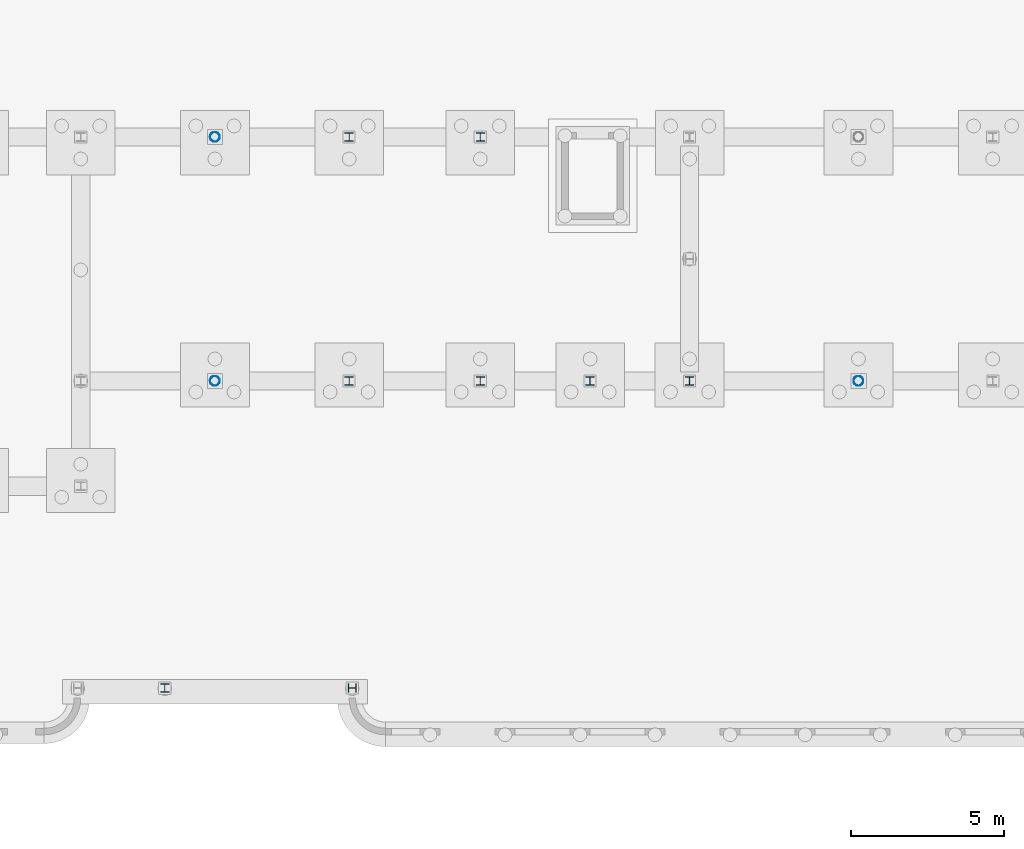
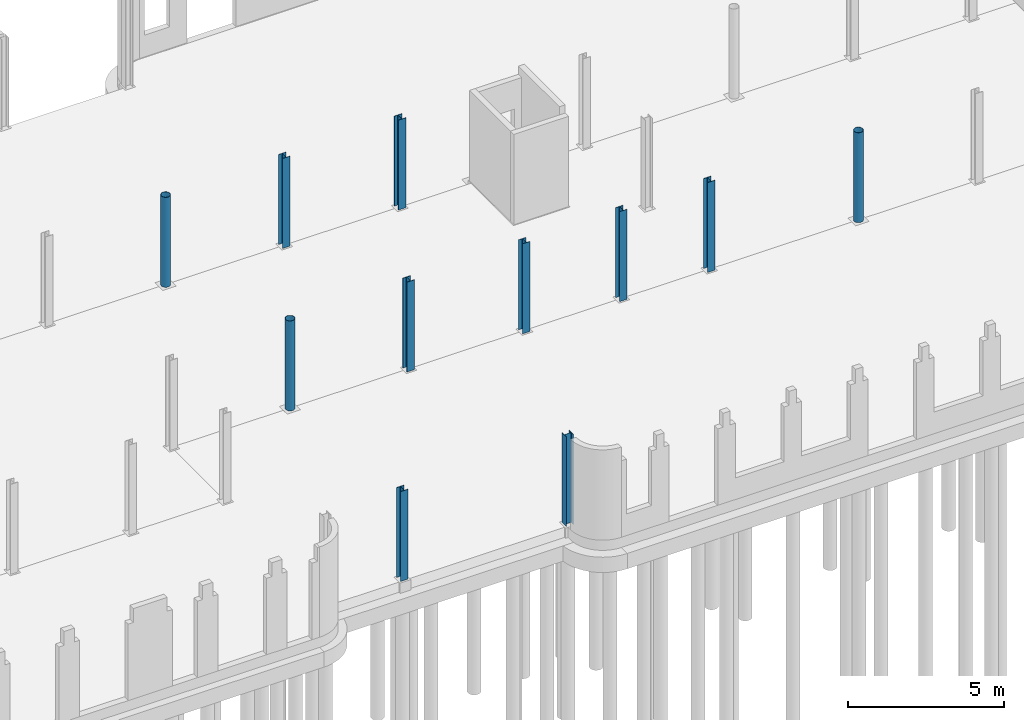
# One storey, part 12 of 26: 11 columns.
"""IFC2X3 building model written with IfcOpenShell, lengths in millimetres."""

import ifcopenshell
import ifcopenshell.guid

model = None  # the IFC model being written
_history = None  # IfcOwnerHistory: only IFC2X3 demands one
_inside = {}  # id of a spatial element -> (the spatial element, [elements in it])
_under = {}  # id of a project, library or spatial element -> (it, [spatial elements below it])
_declared = {}  # id of a project -> (the project, [libraries it declares])
_typed = {}  # id of a type object -> (the type object, [elements of that type])
_made_of = {}  # id of a material, layer set ... -> (it, [elements and type objects made of it])


def new_model(schema):
    """Start an empty IFC model of exactly this schema.

    Asked for "IFC4X3", IfcOpenShell would pick the latest addendum, in which some entities
    have other attributes; the version numbers below select the first issue.
    IFC2X3 requires an IfcOwnerHistory on every rooted entity: one is made here for all.
    """
    global model, _history
    if schema == "IFC4X3":
        model = ifcopenshell.file(schema_version=(4, 3, 0, 0))
    else:
        model = ifcopenshell.file(schema=schema)
    _inside.clear()
    _under.clear()
    _declared.clear()
    _typed.clear()
    _made_of.clear()
    _history = None
    if model.schema == "IFC2X3":
        org = make("IfcOrganization", Name="unknown")
        user = make(
            "IfcPersonAndOrganization",
            ThePerson=make("IfcPerson", FamilyName="unknown"),
            TheOrganization=org,
        )
        app = make(
            "IfcApplication",
            ApplicationDeveloper=org,
            Version="unknown",
            ApplicationFullName="unknown",
            ApplicationIdentifier="unknown",
        )
        _history = make(
            "IfcOwnerHistory",
            OwningUser=user,
            OwningApplication=app,
            ChangeAction="ADDED",
            CreationDate=0,
        )
    return model


def make(cls, **values):
    """One entity of the class cls with the attributes given. An attribute that is None is left unset."""
    return model.create_entity(
        cls, **{name: value for name, value in values.items() if value is not None}
    )


def entity(cls, *values):
    """Any entity or typed value of the class cls, its attributes in the order of the schema. None: left unset."""
    e = model.create_entity(cls)
    for i, value in enumerate(values):
        if value is not None:
            e[i] = value
    return e


def rooted(cls, **values):
    """An entity with a GlobalId (a new one), such as an element, a storey or a relation."""
    return make(cls, GlobalId=ifcopenshell.guid.new(), OwnerHistory=_history, **values)


def si_unit(unit_type, name, prefix=None):
    """IfcSIUnit, for example si_unit("LENGTHUNIT", "METRE", prefix="MILLI")."""
    return make("IfcSIUnit", UnitType=unit_type, Prefix=prefix, Name=name)


def converted_unit(unit_type, name, factor, base, dimensions=None, offset=None):
    """IfcConversionBasedUnit, such as the inch: factor (a typed value) times the base unit."""
    return make(
        "IfcConversionBasedUnit"
        if offset is None
        else "IfcConversionBasedUnitWithOffset",
        ConversionOffset=offset,
        Dimensions=None
        if dimensions is None
        else entity("IfcDimensionalExponents", *dimensions),
        UnitType=unit_type,
        Name=name,
        ConversionFactor=make(
            "IfcMeasureWithUnit", ValueComponent=factor, UnitComponent=base
        ),
    )


def derived_unit(unit_type, elements):
    """IfcDerivedUnit: a product of units, each with its exponent."""
    return make(
        "IfcDerivedUnit",
        Elements=[
            make("IfcDerivedUnitElement", Unit=unit, Exponent=power)
            for unit, power in elements
        ],
        UnitType=unit_type,
    )


def assignment(units):
    """IfcUnitAssignment: the units of a project."""
    return None if units is None else make("IfcUnitAssignment", Units=units)


def point(xyz):
    """IfcCartesianPoint."""
    return None if xyz is None else make("IfcCartesianPoint", Coordinates=xyz)


def direction(xyz):
    """IfcDirection."""
    return None if xyz is None else make("IfcDirection", DirectionRatios=xyz)


def frame(location, z_axis=None, x_axis=None):
    """IfcAxis2Placement3D, a coordinate frame: its origin and axes. An axis left out is left unset."""
    return make(
        "IfcAxis2Placement3D",
        Location=point(location),
        Axis=direction(z_axis),
        RefDirection=direction(x_axis),
    )


def frame_2d(location, x_axis=None):
    """IfcAxis2Placement2D, a coordinate frame in the plane: its origin and x axis."""
    return make(
        "IfcAxis2Placement2D", Location=point(location), RefDirection=direction(x_axis)
    )


def origin():
    """The frame at (0, 0, 0) with its axes left unset."""
    return frame((0.0, 0.0, 0.0))


def origin_2d_with_axis():
    """The frame at (0, 0) in the plane with the x axis (1, 0) written out."""
    return frame_2d((0.0, 0.0), x_axis=(1.0, 0.0))


def place(relative_to, where):
    """IfcLocalPlacement: puts the frame where relative to a parent placement (None: the world)."""
    return make(
        "IfcLocalPlacement", PlacementRelTo=relative_to, RelativePlacement=where
    )


def context(
    kind, dimensions, precision=None, world=None, true_north=None, identifier=None
):
    """IfcGeometricRepresentationContext, for example the 3D "Model" context."""
    return make(
        "IfcGeometricRepresentationContext",
        ContextIdentifier=identifier,
        ContextType=kind,
        CoordinateSpaceDimension=dimensions,
        Precision=precision,
        WorldCoordinateSystem=world,
        TrueNorth=true_north,
    )


def subcontext(parent, identifier, kind, view, scale=None):
    """IfcGeometricRepresentationSubContext, for example "Body" below "Model"."""
    return make(
        "IfcGeometricRepresentationSubContext",
        ContextIdentifier=identifier,
        ContextType=kind,
        ParentContext=parent,
        TargetScale=scale,
        TargetView=view,
    )


def project(units=None, contexts=None):
    """IfcProject with its units and contexts."""
    return rooted(
        "IfcProject",
        Name="project",
        RepresentationContexts=contexts,
        UnitsInContext=assignment(units),
    )


def spatial(cls, under=None, at=None, **own):
    """A site, building, storey or space (cls), placed at a placement, below another one or the project."""
    s = rooted(cls, ObjectPlacement=at, **own)
    if under is not None:
        _under.setdefault(under.id(), (under, []))[1].append(s)
    return s


def profile(cls, at=None, kind="AREA", **sizes):
    """A parametric profile (cls). Its sizes go by their IFC names, for example OverallWidth=200.0."""
    return make(cls, ProfileType=kind, Position=at, **sizes)


def hollow_circle(**sizes):
    """IfcCircleHollowProfileDef."""
    return profile("IfcCircleHollowProfileDef", **sizes)


def i_section(**sizes):
    """IfcIShapeProfileDef."""
    return profile("IfcIShapeProfileDef", **sizes)


def extrude(swept, where, along, depth):
    """IfcExtrudedAreaSolid: the profile swept, set in the frame where, extruded along a direction by depth."""
    return make(
        "IfcExtrudedAreaSolid",
        SweptArea=swept,
        Position=where,
        ExtrudedDirection=direction(along),
        Depth=depth,
    )


def shape(context_of_items, identifier, shape_type, items):
    """IfcShapeRepresentation: the items that make up one representation, for example the "Body"."""
    return make(
        "IfcShapeRepresentation",
        ContextOfItems=context_of_items,
        RepresentationIdentifier=identifier,
        RepresentationType=shape_type,
        Items=items,
    )


def source(mapping_origin, context_of_items, identifier, shape_type, items):
    """IfcRepresentationMap: a shape defined once, which mapped items show again and again."""
    return make(
        "IfcRepresentationMap",
        MappingOrigin=mapping_origin,
        MappedRepresentation=shape(context_of_items, identifier, shape_type, items),
    )


def transform(
    local_origin,
    x_axis=None,
    y_axis=None,
    z_axis=None,
    scale=None,
    scale2=None,
    scale3=None,
    uniform=True,
):
    """IfcCartesianTransformationOperator3D, or its non-uniform kind. x_axis, y_axis, z_axis: its Axis1, 2, 3."""
    if uniform:
        return make(
            "IfcCartesianTransformationOperator3D",
            Axis1=direction(x_axis),
            Axis2=direction(y_axis),
            LocalOrigin=point(local_origin),
            Scale=scale,
            Axis3=direction(z_axis),
        )
    return make(
        "IfcCartesianTransformationOperator3DnonUniform",
        Axis1=direction(x_axis),
        Axis2=direction(y_axis),
        LocalOrigin=point(local_origin),
        Scale=scale,
        Axis3=direction(z_axis),
        Scale2=scale2,
        Scale3=scale3,
    )


def mapped(mapping_source, mapping_target):
    """IfcMappedItem: shows the shape of a source again, moved by a transform."""
    return make(
        "IfcMappedItem", MappingSource=mapping_source, MappingTarget=mapping_target
    )


def material(Name=None, Category=None):
    """IfcMaterial."""
    return make("IfcMaterial", Name=Name, Category=Category)


def made_of(thing, what):
    """Note that an element or type object is made of a material, layer set ...; save() writes the relation."""
    if what is not None:
        _made_of.setdefault(what.id(), (what, []))[1].append(thing)
    return thing


def type_object(cls, material=None, **own):
    """A type object (cls), such as IfcWallType, which elements share."""
    return made_of(rooted(cls, **own), material)


def type_shapes(of_type, sources):
    """Give a type object the sources (RepresentationMaps) that its elements show as mapped items."""
    of_type.RepresentationMaps = sources


def element(
    cls,
    number,
    at=None,
    inside=None,
    cuts=None,
    type_object=None,
    material=None,
    context=None,
    identifier="Body",
    shape_type=None,
    held_by="IfcProductDefinitionShape",
    body=None,
    shapes=None,
    **own,
):
    """One element of the class cls, such as IfcWall. Its Tag is "e" and its number.

    at: its placement. inside: the storey or other place that contains it. cuts: it is an
    opening in that element (IfcRelVoidsElement). A single representation is given by context,
    identifier, shape_type and body (its items); several are given by shapes. held_by: the class
    of the entity that holds the representations. save() writes the other relations.
    """
    e = rooted(cls, Tag="e%d" % number, ObjectPlacement=at, **own)
    if body is not None:
        shapes = [shape(context, identifier, shape_type, body)]
    if shapes is not None:
        e.Representation = make(held_by, Representations=shapes)
    if inside is not None:
        _inside.setdefault(inside.id(), (inside, []))[1].append(e)
    if cuts is not None:
        rooted(
            "IfcRelVoidsElement", RelatingBuildingElement=cuts, RelatedOpeningElement=e
        )
    if type_object is not None:
        _typed.setdefault(type_object.id(), (type_object, []))[1].append(e)
    return made_of(e, material)


def aggregate(whole, parts):
    """IfcRelAggregates: a whole, such as a stair, and the parts it consists of."""
    return rooted("IfcRelAggregates", RelatingObject=whole, RelatedObjects=parts)


def save(model, path):
    """Write the relations noted so far, then the file.

    IfcRelAggregates (storeys below a building ...), IfcRelContainedInSpatialStructure (elements
    in a storey), IfcRelDefinesByType, IfcRelAssociatesMaterial and IfcRelDeclares: one each for
    every whole, place, type object, material and project.
    """
    for whole, parts in _under.values():
        aggregate(whole, parts)
    for where, things in _inside.values():
        rooted(
            "IfcRelContainedInSpatialStructure",
            RelatedElements=things,
            RelatingStructure=where,
        )
    for kind, things in _typed.values():
        rooted("IfcRelDefinesByType", RelatedObjects=things, RelatingType=kind)
    for what, things in _made_of.values():
        rooted("IfcRelAssociatesMaterial", RelatedObjects=things, RelatingMaterial=what)
    for by, libraries in _declared.values():
        rooted("IfcRelDeclares", RelatingContext=by, RelatedDefinitions=libraries)
    model.write(path)


model = new_model("IFC2X3")

# Units and contexts
model_context = context("Model", 3, precision=0.01, world=origin(), true_north=direction((6.123031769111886e-17, 1.0)))
body_context = subcontext(model_context, "Body", "Model", "MODEL_VIEW")
ifc_project = project(units=[si_unit("LENGTHUNIT", "METRE", prefix="MILLI"), si_unit("AREAUNIT", "SQUARE_METRE"), si_unit("VOLUMEUNIT", "CUBIC_METRE"), derived_unit("MASSDENSITYUNIT", [(si_unit("MASSUNIT", "GRAM", prefix="KILO"), 1), (si_unit("LENGTHUNIT", "METRE"), -3)]), si_unit("MASSUNIT", "GRAM", prefix="KILO"), converted_unit("PLANEANGLEUNIT", "DEGREE", entity("IfcPlaneAngleMeasure", 0.017453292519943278), si_unit("PLANEANGLEUNIT", "RADIAN"), dimensions=[0, 0, 0, 0, 0, 0, 0])], contexts=[model_context])

# Site, building, storey
site_placement = place(None, origin())
site = spatial("IfcSite", under=ifc_project, at=site_placement, Name="Default", CompositionType="ELEMENT")
building_placement = place(site_placement, origin())
building = spatial("IfcBuilding", under=site, at=building_placement, Name="AT constructie", CompositionType="ELEMENT")
storey_placement = place(building_placement, origin())
storey = spatial("IfcBuildingStorey", under=building, at=storey_placement, Name="00 begane grond", CompositionType="ELEMENT", Elevation=-1.0828671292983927e-12)

# Columns
ifc_material = material(Name="h2_staal_S355")
column_type_1 = type_object("IfcColumnType", Name="kolom_gen_HEA280", PredefinedType="COLUMN", material=ifc_material)
shared_shape_1 = source(origin(), body_context, "Body", "SweptSolid", [
    extrude(i_section(OverallWidth=280.0000000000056, OverallDepth=269.99999999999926, WebThickness=7.999999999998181, FlangeThickness=13.000000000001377, FilletRadius=24.0, at=frame_2d((0.0, -4.320099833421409e-12), x_axis=(1.0, 0.0))), frame((82546.87463111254, 31271.043508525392, -50.0)), (0.0, 0.0, 1.0), 3529.0000000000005),
])
type_shapes(column_type_1, [shared_shape_1])
column_1_placement = place(storey_placement, origin())
element("IfcColumn", 1, at=column_1_placement, inside=storey, type_object=column_type_1, material=ifc_material, Name="NLRS_28_SC_TLB_kolom HEA_gen_AT:kolom_gen_HEA280", ObjectType="NLRS_28_SC_TLB_kolom HEA_gen_AT:kolom_gen_HEA280", context=body_context, shape_type="MappedRepresentation", body=[
    mapped(shared_shape_1, transform((0.0, 0.0, 0.0), scale=1.0)),
])
column_type_2 = type_object("IfcColumnType", Name="kolom_gen_HEA280", PredefinedType="COLUMN", material=ifc_material)
shared_shape_2 = source(origin(), body_context, "Body", "SweptSolid", [
    extrude(i_section(OverallWidth=280.0000000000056, OverallDepth=269.99999999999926, WebThickness=7.999999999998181, FlangeThickness=13.000000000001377, FilletRadius=24.0, at=frame_2d((-1.7323031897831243e-11, 0.0), x_axis=(1.0, 0.0))), frame((78246.87463111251, 31271.0435085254, -50.0)), (0.0, 0.0, 1.0), 3529.0000000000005),
])
type_shapes(column_type_2, [shared_shape_2])
column_2_placement = place(storey_placement, origin())
element("IfcColumn", 2, at=column_2_placement, inside=storey, type_object=column_type_2, material=ifc_material, Name="NLRS_28_SC_TLB_kolom HEA_gen_AT:kolom_gen_HEA280", ObjectType="NLRS_28_SC_TLB_kolom HEA_gen_AT:kolom_gen_HEA280", context=body_context, shape_type="MappedRepresentation", body=[
    mapped(shared_shape_2, transform((0.0, 0.0, 0.0), scale=1.0)),
])
column_type_3 = type_object("IfcColumnType", Name="kolom_gen_ø323.9x8", PredefinedType="COLUMN", material=ifc_material)
shared_shape_3 = source(origin(), body_context, "Body", "SweptSolid", [
    extrude(hollow_circle(Radius=161.95, WallThickness=8.0, at=origin_2d_with_axis()), frame((73846.87463111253, 31271.043508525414, -50.0), z_axis=(0.0, 0.0, 1.0), x_axis=(-1.0, 0.0, 0.0)), (0.0, 0.0, 1.0), 3529.0000000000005),
])
type_shapes(column_type_3, [shared_shape_3])
column_3_placement = place(storey_placement, origin())
element("IfcColumn", 3, at=column_3_placement, inside=storey, type_object=column_type_3, material=ifc_material, Name="NLRS_28_SC_TLB_kolom buis_gen_AT:kolom_gen_ø323.9x8", ObjectType="NLRS_28_SC_TLB_kolom buis_gen_AT:kolom_gen_ø323.9x8", context=body_context, shape_type="MappedRepresentation", body=[
    mapped(shared_shape_3, transform((0.0, 0.0, 0.0), scale=1.0)),
])
column_type_4 = type_object("IfcColumnType", Name="kolom_gen_ø323.9x8", PredefinedType="COLUMN", material=ifc_material)
shared_shape_4 = source(origin(), body_context, "Body", "SweptSolid", [
    extrude(hollow_circle(Radius=161.95, WallThickness=8.0, at=origin_2d_with_axis()), frame((94946.87463111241, 23271.04350852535, -50.0), z_axis=(0.0, 0.0, 1.0), x_axis=(-1.0, 0.0, 0.0)), (0.0, 0.0, 1.0), 3529.0000000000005),
])
type_shapes(column_type_4, [shared_shape_4])
column_4_placement = place(storey_placement, origin())
element("IfcColumn", 4, at=column_4_placement, inside=storey, type_object=column_type_4, material=ifc_material, Name="NLRS_28_SC_TLB_kolom buis_gen_AT:kolom_gen_ø323.9x8", ObjectType="NLRS_28_SC_TLB_kolom buis_gen_AT:kolom_gen_ø323.9x8", context=body_context, shape_type="MappedRepresentation", body=[
    mapped(shared_shape_4, transform((0.0, 0.0, 0.0), scale=1.0)),
])
column_type_5 = type_object("IfcColumnType", Name="kolom_gen_HEA280", PredefinedType="COLUMN", material=ifc_material)
shared_shape_5 = source(origin(), body_context, "Body", "SweptSolid", [
    extrude(i_section(OverallWidth=280.0000000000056, OverallDepth=269.99999999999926, WebThickness=7.999999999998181, FlangeThickness=13.000000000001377, FilletRadius=24.0, at=origin_2d_with_axis()), frame((82546.87463111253, 23271.043508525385, -50.0)), (0.0, 0.0, 1.0), 3529.0000000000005),
])
type_shapes(column_type_5, [shared_shape_5])
column_5_placement = place(storey_placement, origin())
element("IfcColumn", 5, at=column_5_placement, inside=storey, type_object=column_type_5, material=ifc_material, Name="NLRS_28_SC_TLB_kolom HEA_gen_AT:kolom_gen_HEA280", ObjectType="NLRS_28_SC_TLB_kolom HEA_gen_AT:kolom_gen_HEA280", context=body_context, shape_type="MappedRepresentation", body=[
    mapped(shared_shape_5, transform((0.0, 0.0, 0.0), scale=1.0)),
])
column_type_6 = type_object("IfcColumnType", Name="kolom_gen_HEA280", PredefinedType="COLUMN", material=ifc_material)
shared_shape_6 = source(origin(), body_context, "Body", "SweptSolid", [
    extrude(i_section(OverallWidth=280.0000000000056, OverallDepth=269.99999999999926, WebThickness=7.999999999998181, FlangeThickness=13.000000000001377, FilletRadius=24.0, at=origin_2d_with_axis()), frame((78246.87463111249, 23271.0435085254, -50.0)), (0.0, 0.0, 1.0), 3529.0000000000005),
])
type_shapes(column_type_6, [shared_shape_6])
column_6_placement = place(storey_placement, origin())
element("IfcColumn", 6, at=column_6_placement, inside=storey, type_object=column_type_6, material=ifc_material, Name="NLRS_28_SC_TLB_kolom HEA_gen_AT:kolom_gen_HEA280", ObjectType="NLRS_28_SC_TLB_kolom HEA_gen_AT:kolom_gen_HEA280", context=body_context, shape_type="MappedRepresentation", body=[
    mapped(shared_shape_6, transform((0.0, 0.0, 0.0), scale=1.0)),
])
column_type_7 = type_object("IfcColumnType", Name="kolom_gen_ø323.9x8", PredefinedType="COLUMN", material=ifc_material)
shared_shape_7 = source(origin(), body_context, "Body", "SweptSolid", [
    extrude(hollow_circle(Radius=161.95, WallThickness=8.0, at=origin_2d_with_axis()), frame((73846.87463111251, 23271.04350852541, -50.0), z_axis=(0.0, 0.0, 1.0), x_axis=(-1.0, 0.0, 0.0)), (0.0, 0.0, 1.0), 3529.0000000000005),
])
type_shapes(column_type_7, [shared_shape_7])
column_7_placement = place(storey_placement, origin())
element("IfcColumn", 7, at=column_7_placement, inside=storey, type_object=column_type_7, material=ifc_material, Name="NLRS_28_SC_TLB_kolom buis_gen_AT:kolom_gen_ø323.9x8", ObjectType="NLRS_28_SC_TLB_kolom buis_gen_AT:kolom_gen_ø323.9x8", context=body_context, shape_type="MappedRepresentation", body=[
    mapped(shared_shape_7, transform((0.0, 0.0, 0.0), scale=1.0)),
])
column_type_8 = type_object("IfcColumnType", Name="kolom_gen_HEA280", PredefinedType="COLUMN", material=ifc_material)
shared_shape_8 = source(origin(), body_context, "Body", "SweptSolid", [
    extrude(i_section(OverallWidth=280.0000000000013, OverallDepth=270.0000000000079, WebThickness=7.999999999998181, FlangeThickness=12.999999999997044, FilletRadius=24.0, at=origin_2d_with_axis()), frame((78348.37463291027, 13206.043511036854, -50.0), z_axis=(0.0, 0.0, 1.0), x_axis=(0.0, 1.0, 0.0)), (0.0, 0.0, 1.0), 3529.0000000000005),
])
type_shapes(column_type_8, [shared_shape_8])
column_8_placement = place(storey_placement, origin())
element("IfcColumn", 8, at=column_8_placement, inside=storey, type_object=column_type_8, material=ifc_material, Name="NLRS_28_SC_TLB_kolom HEA_gen_AT:kolom_gen_HEA280", ObjectType="NLRS_28_SC_TLB_kolom HEA_gen_AT:kolom_gen_HEA280", context=body_context, shape_type="MappedRepresentation", body=[
    mapped(shared_shape_8, transform((0.0, 0.0, 0.0), scale=1.0)),
])
column_type_9 = type_object("IfcColumnType", Name="kolom_gen_HEA280", PredefinedType="COLUMN", material=ifc_material)
shared_shape_9 = source(origin(), body_context, "Body", "SweptSolid", [
    extrude(i_section(OverallWidth=280.0000000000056, OverallDepth=270.0000000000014, WebThickness=7.999999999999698, FlangeThickness=12.99999999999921, FilletRadius=24.0, at=frame_2d((-1.7323031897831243e-11, -2.1600499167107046e-12), x_axis=(1.0, 0.0))), frame((72204.37460725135, 13206.043511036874, -50.0), z_axis=(0.0, 0.0, 1.0), x_axis=(-1.0, 0.0, 0.0)), (0.0, 0.0, 1.0), 3529.0000000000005),
])
type_shapes(column_type_9, [shared_shape_9])
column_9_placement = place(storey_placement, origin())
element("IfcColumn", 9, at=column_9_placement, inside=storey, type_object=column_type_9, material=ifc_material, Name="NLRS_28_SC_TLB_kolom HEA_gen_AT:kolom_gen_HEA280", ObjectType="NLRS_28_SC_TLB_kolom HEA_gen_AT:kolom_gen_HEA280", context=body_context, shape_type="MappedRepresentation", body=[
    mapped(shared_shape_9, transform((0.0, 0.0, 0.0), scale=1.0)),
])
column_type_10 = type_object("IfcColumnType", Name="kolom_gen_HEA280", PredefinedType="COLUMN", material=ifc_material)
shared_shape_10 = source(origin(), body_context, "Body", "SweptSolid", [
    extrude(i_section(OverallWidth=280.0000000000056, OverallDepth=269.99999999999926, WebThickness=7.999999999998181, FlangeThickness=13.000000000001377, FilletRadius=24.0, at=frame_2d((1.7323031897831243e-11, 0.0), x_axis=(1.0, 0.0))), frame((89407.37463111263, 23271.043508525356, -50.0)), (0.0, 0.0, 1.0), 3529.0000000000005),
])
type_shapes(column_type_10, [shared_shape_10])
column_10_placement = place(storey_placement, origin())
element("IfcColumn", 10, at=column_10_placement, inside=storey, type_object=column_type_10, material=ifc_material, Name="NLRS_28_SC_TLB_kolom HEA_gen_AT:kolom_gen_HEA280", ObjectType="NLRS_28_SC_TLB_kolom HEA_gen_AT:kolom_gen_HEA280", context=body_context, shape_type="MappedRepresentation", body=[
    mapped(shared_shape_10, transform((0.0, 0.0, 0.0), scale=1.0)),
])
column_type_11 = type_object("IfcColumnType", Name="kolom_gen_HEA280", PredefinedType="COLUMN", material=ifc_material)
shared_shape_11 = source(origin(), body_context, "Body", "SweptSolid", [
    extrude(i_section(OverallWidth=280.0000000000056, OverallDepth=269.99999999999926, WebThickness=7.999999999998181, FlangeThickness=13.000000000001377, FilletRadius=24.0, at=frame_2d((0.0, 4.320099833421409e-12), x_axis=(1.0, 0.0))), frame((86146.87463111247, 23271.043508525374, -50.0)), (0.0, 0.0, 1.0), 3529.0000000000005),
])
type_shapes(column_type_11, [shared_shape_11])
column_11_placement = place(storey_placement, origin())
element("IfcColumn", 11, at=column_11_placement, inside=storey, type_object=column_type_11, material=ifc_material, Name="NLRS_28_SC_TLB_kolom HEA_gen_AT:kolom_gen_HEA280", ObjectType="NLRS_28_SC_TLB_kolom HEA_gen_AT:kolom_gen_HEA280", context=body_context, shape_type="MappedRepresentation", body=[
    mapped(shared_shape_11, transform((0.0, 0.0, 0.0), scale=1.0)),
])

save(model, "model.ifc")
